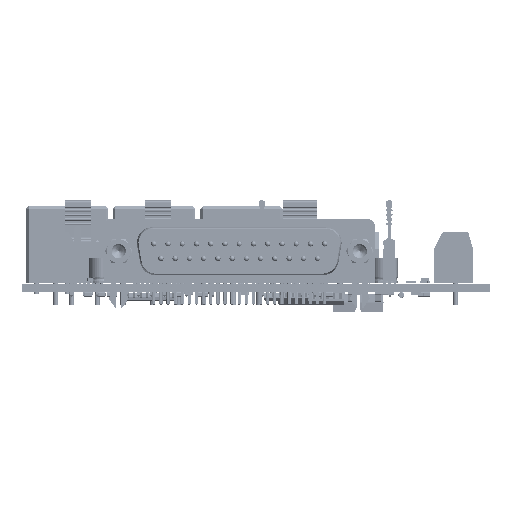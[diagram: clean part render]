
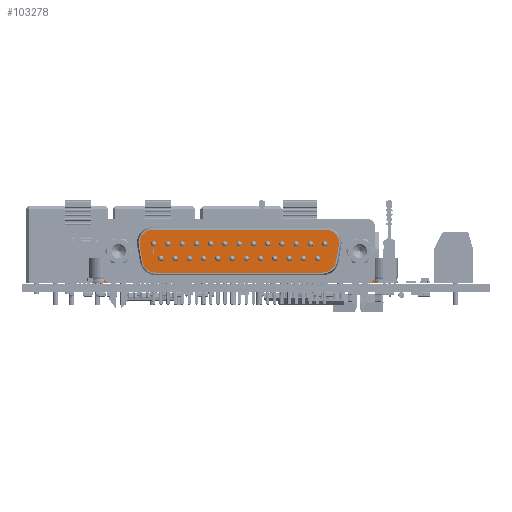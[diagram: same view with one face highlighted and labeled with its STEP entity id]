
A CAD part, left-side view. The second image highlights one B-rep face of the part: STEP entity #103278.
In plain terms, the highlighted planar face has unit normal (-1, 0, 0) as drawn and (0, 1, 0) by its records, which use the part's own axes.
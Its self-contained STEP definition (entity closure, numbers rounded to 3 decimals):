
#103177 = VERTEX_POINT('',#103178);
#103178 = CARTESIAN_POINT('',(21.918,7.699,6.274));
#103184 = EDGE_CURVE('',#103185,#103177,#103187,.T.);
#103185 = VERTEX_POINT('',#103186);
#103186 = CARTESIAN_POINT('',(24.966,7.699,6.274));
#103187 = CIRCLE('',#103188,1.524);
#103188 = AXIS2_PLACEMENT_3D('',#103189,#103190,#103191);
#103189 = CARTESIAN_POINT('',(23.442,7.699,6.274));
#103190 = DIRECTION('',(0.,1.,0.));
#103191 = DIRECTION('',(-1.,0.,0.));
#103219 = VERTEX_POINT('',#103220);
#103220 = CARTESIAN_POINT('',(-24.962,7.699,6.274));
#103226 = EDGE_CURVE('',#103227,#103219,#103229,.T.);
#103227 = VERTEX_POINT('',#103228);
#103228 = CARTESIAN_POINT('',(-21.914,7.699,6.274));
#103229 = CIRCLE('',#103230,1.524);
#103230 = AXIS2_PLACEMENT_3D('',#103231,#103232,#103233);
#103231 = CARTESIAN_POINT('',(-23.438,7.699,6.274));
#103232 = DIRECTION('',(0.,1.,0.));
#103233 = DIRECTION('',(-1.,0.,0.));
#103258 = EDGE_CURVE('',#103177,#103185,#103259,.T.);
#103259 = CIRCLE('',#103260,1.524);
#103260 = AXIS2_PLACEMENT_3D('',#103261,#103262,#103263);
#103261 = CARTESIAN_POINT('',(23.442,7.699,6.274));
#103262 = DIRECTION('',(0.,1.,0.));
#103263 = DIRECTION('',(-1.,0.,0.));
#103278 = ADVANCED_FACE('',(#103279,#103289,#103293),#103409,.F.);
#103279 = FACE_BOUND('',#103280,.T.);
#103280 = EDGE_LOOP('',(#103281,#103288));
#103281 = ORIENTED_EDGE('',*,*,#103282,.F.);
#103282 = EDGE_CURVE('',#103219,#103227,#103283,.T.);
#103283 = CIRCLE('',#103284,1.524);
#103284 = AXIS2_PLACEMENT_3D('',#103285,#103286,#103287);
#103285 = CARTESIAN_POINT('',(-23.438,7.699,6.274));
#103286 = DIRECTION('',(0.,1.,0.));
#103287 = DIRECTION('',(-1.,0.,0.));
#103288 = ORIENTED_EDGE('',*,*,#103226,.F.);
#103289 = FACE_BOUND('',#103290,.T.);
#103290 = EDGE_LOOP('',(#103291,#103292));
#103291 = ORIENTED_EDGE('',*,*,#103258,.F.);
#103292 = ORIENTED_EDGE('',*,*,#103184,.F.);
#103293 = FACE_BOUND('',#103294,.T.);
#103294 = EDGE_LOOP('',(#103295,#103305,#103313,#103321,#103329,#103337,
    #103345,#103354,#103362,#103371,#103379,#103387,#103395,#103403));
#103295 = ORIENTED_EDGE('',*,*,#103296,.F.);
#103296 = EDGE_CURVE('',#103297,#103299,#103301,.T.);
#103297 = VERTEX_POINT('',#103298);
#103298 = CARTESIAN_POINT('',(-21.597,7.699,0.));
#103299 = VERTEX_POINT('',#103300);
#103300 = CARTESIAN_POINT('',(21.6,7.699,0.));
#103301 = LINE('',#103302,#103303);
#103302 = CARTESIAN_POINT('',(0.002,7.699,0.));
#103303 = VECTOR('',#103304,1.);
#103304 = DIRECTION('',(1.,0.,0.));
#103305 = ORIENTED_EDGE('',*,*,#103306,.T.);
#103306 = EDGE_CURVE('',#103297,#103307,#103309,.T.);
#103307 = VERTEX_POINT('',#103308);
#103308 = CARTESIAN_POINT('',(-21.597,7.699,1.372));
#103309 = LINE('',#103310,#103311);
#103310 = CARTESIAN_POINT('',(-21.597,7.699,1.448));
#103311 = VECTOR('',#103312,1.);
#103312 = DIRECTION('',(0.,0.,1.));
#103313 = ORIENTED_EDGE('',*,*,#103314,.F.);
#103314 = EDGE_CURVE('',#103315,#103307,#103317,.T.);
#103315 = VERTEX_POINT('',#103316);
#103316 = CARTESIAN_POINT('',(-25.28,7.699,1.372));
#103317 = LINE('',#103318,#103319);
#103318 = CARTESIAN_POINT('',(0.002,7.699,1.372));
#103319 = VECTOR('',#103320,1.);
#103320 = DIRECTION('',(1.,0.,0.));
#103321 = ORIENTED_EDGE('',*,*,#103322,.T.);
#103322 = EDGE_CURVE('',#103315,#103323,#103325,.T.);
#103323 = VERTEX_POINT('',#103324);
#103324 = CARTESIAN_POINT('',(-25.28,7.699,0.));
#103325 = LINE('',#103326,#103327);
#103326 = CARTESIAN_POINT('',(-25.28,7.699,1.448));
#103327 = VECTOR('',#103328,1.);
#103328 = DIRECTION('',(-0.,-0.,-1.));
#103329 = ORIENTED_EDGE('',*,*,#103330,.F.);
#103330 = EDGE_CURVE('',#103331,#103323,#103333,.T.);
#103331 = VERTEX_POINT('',#103332);
#103332 = CARTESIAN_POINT('',(-26.347,7.699,0.));
#103333 = LINE('',#103334,#103335);
#103334 = CARTESIAN_POINT('',(0.002,7.699,0.));
#103335 = VECTOR('',#103336,1.);
#103336 = DIRECTION('',(1.,0.,0.));
#103337 = ORIENTED_EDGE('',*,*,#103338,.F.);
#103338 = EDGE_CURVE('',#103339,#103331,#103341,.T.);
#103339 = VERTEX_POINT('',#103340);
#103340 = CARTESIAN_POINT('',(-26.347,7.699,10.96));
#103341 = LINE('',#103342,#103343);
#103342 = CARTESIAN_POINT('',(-26.347,7.699,6.274));
#103343 = VECTOR('',#103344,1.);
#103344 = DIRECTION('',(-0.,-0.,-1.));
#103345 = ORIENTED_EDGE('',*,*,#103346,.F.);
#103346 = EDGE_CURVE('',#103347,#103339,#103349,.T.);
#103347 = VERTEX_POINT('',#103348);
#103348 = CARTESIAN_POINT('',(-24.759,7.699,12.548));
#103349 = CIRCLE('',#103350,1.588);
#103350 = AXIS2_PLACEMENT_3D('',#103351,#103352,#103353);
#103351 = CARTESIAN_POINT('',(-24.759,7.699,10.96));
#103352 = DIRECTION('',(0.,-1.,0.));
#103353 = DIRECTION('',(-1.,0.,0.));
#103354 = ORIENTED_EDGE('',*,*,#103355,.F.);
#103355 = EDGE_CURVE('',#103356,#103347,#103358,.T.);
#103356 = VERTEX_POINT('',#103357);
#103357 = CARTESIAN_POINT('',(24.763,7.699,12.548));
#103358 = LINE('',#103359,#103360);
#103359 = CARTESIAN_POINT('',(0.002,7.699,12.548));
#103360 = VECTOR('',#103361,1.);
#103361 = DIRECTION('',(-1.,-0.,-0.));
#103362 = ORIENTED_EDGE('',*,*,#103363,.F.);
#103363 = EDGE_CURVE('',#103364,#103356,#103366,.T.);
#103364 = VERTEX_POINT('',#103365);
#103365 = CARTESIAN_POINT('',(26.35,7.699,10.96));
#103366 = CIRCLE('',#103367,1.588);
#103367 = AXIS2_PLACEMENT_3D('',#103368,#103369,#103370);
#103368 = CARTESIAN_POINT('',(24.763,7.699,10.96));
#103369 = DIRECTION('',(0.,-1.,0.));
#103370 = DIRECTION('',(-1.,0.,0.));
#103371 = ORIENTED_EDGE('',*,*,#103372,.F.);
#103372 = EDGE_CURVE('',#103373,#103364,#103375,.T.);
#103373 = VERTEX_POINT('',#103374);
#103374 = CARTESIAN_POINT('',(26.35,7.699,0.));
#103375 = LINE('',#103376,#103377);
#103376 = CARTESIAN_POINT('',(26.35,7.699,6.274));
#103377 = VECTOR('',#103378,1.);
#103378 = DIRECTION('',(0.,0.,1.));
#103379 = ORIENTED_EDGE('',*,*,#103380,.F.);
#103380 = EDGE_CURVE('',#103381,#103373,#103383,.T.);
#103381 = VERTEX_POINT('',#103382);
#103382 = CARTESIAN_POINT('',(25.283,7.699,0.));
#103383 = LINE('',#103384,#103385);
#103384 = CARTESIAN_POINT('',(0.002,7.699,0.));
#103385 = VECTOR('',#103386,1.);
#103386 = DIRECTION('',(1.,0.,0.));
#103387 = ORIENTED_EDGE('',*,*,#103388,.T.);
#103388 = EDGE_CURVE('',#103381,#103389,#103391,.T.);
#103389 = VERTEX_POINT('',#103390);
#103390 = CARTESIAN_POINT('',(25.283,7.699,1.372));
#103391 = LINE('',#103392,#103393);
#103392 = CARTESIAN_POINT('',(25.283,7.699,1.448));
#103393 = VECTOR('',#103394,1.);
#103394 = DIRECTION('',(0.,0.,1.));
#103395 = ORIENTED_EDGE('',*,*,#103396,.F.);
#103396 = EDGE_CURVE('',#103397,#103389,#103399,.T.);
#103397 = VERTEX_POINT('',#103398);
#103398 = CARTESIAN_POINT('',(21.6,7.699,1.372));
#103399 = LINE('',#103400,#103401);
#103400 = CARTESIAN_POINT('',(0.002,7.699,1.372));
#103401 = VECTOR('',#103402,1.);
#103402 = DIRECTION('',(1.,0.,0.));
#103403 = ORIENTED_EDGE('',*,*,#103404,.T.);
#103404 = EDGE_CURVE('',#103397,#103299,#103405,.T.);
#103405 = LINE('',#103406,#103407);
#103406 = CARTESIAN_POINT('',(21.6,7.699,1.448));
#103407 = VECTOR('',#103408,1.);
#103408 = DIRECTION('',(-0.,-0.,-1.));
#103409 = PLANE('',#103410);
#103410 = AXIS2_PLACEMENT_3D('',#103411,#103412,#103413);
#103411 = CARTESIAN_POINT('',(-26.347,7.699,0.));
#103412 = DIRECTION('',(0.,-1.,0.));
#103413 = DIRECTION('',(1.,0.,0.));
